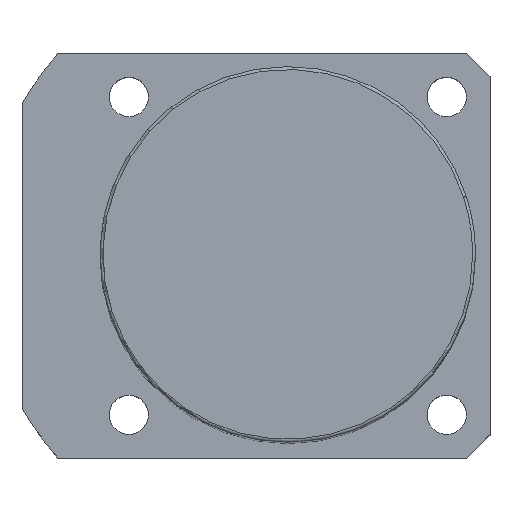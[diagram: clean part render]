
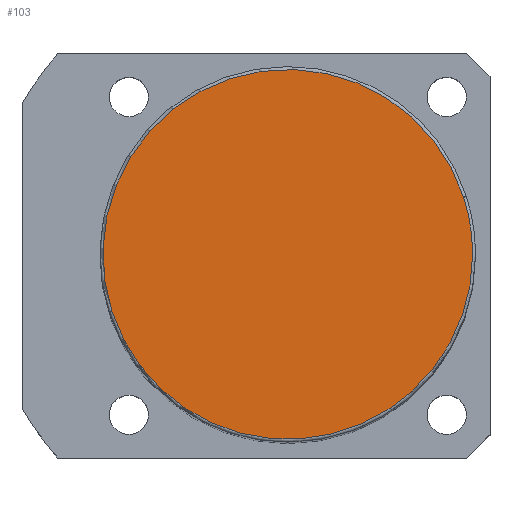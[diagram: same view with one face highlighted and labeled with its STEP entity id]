
A CAD part, top view. The second image highlights one B-rep face of the part: STEP entity #103.
In plain terms, the highlighted planar face has unit normal (0, 0, 1).
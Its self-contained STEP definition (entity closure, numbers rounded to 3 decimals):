
#16=CARTESIAN_POINT('',(-30.434,-9.889,161.0));
#17=VERTEX_POINT('',#16);
#54=CARTESIAN_POINT('',(30.434,9.889,161.0));
#55=VERTEX_POINT('',#54);
#63=CARTESIAN_POINT('',(32.0,0.0,161.0));
#64=VERTEX_POINT('',#63);
#65=CARTESIAN_POINT('',(0.0,0.0,161.0));
#66=DIRECTION('',(0.0,0.0,1.0));
#67=DIRECTION('',(1.0,0.0,0.0));
#68=AXIS2_PLACEMENT_3D('',#65,#66,#67);
#69=CIRCLE('',#68,32.0);
#70=EDGE_CURVE('no 898',#64,#55,#69,.T.);
#72=CARTESIAN_POINT('',(0.0,0.0,161.0));
#73=DIRECTION('',(0.0,0.0,1.0));
#74=DIRECTION('',(1.0,0.0,0.0));
#75=AXIS2_PLACEMENT_3D('',#72,#73,#74);
#76=CIRCLE('',#75,32.0);
#77=EDGE_CURVE('no 902',#17,#64,#76,.T.);
#87=ORIENTED_EDGE('',*,*,#70,.T.);
#88=CARTESIAN_POINT('',(0.0,0.0,161.0));
#89=DIRECTION('',(0.0,0.0,1.0));
#90=DIRECTION('',(1.0,0.0,0.0));
#91=AXIS2_PLACEMENT_3D('',#88,#89,#90);
#92=CIRCLE('',#91,32.0);
#93=EDGE_CURVE('no 911',#55,#17,#92,.T.);
#94=ORIENTED_EDGE('',*,*,#93,.T.);
#95=ORIENTED_EDGE('',*,*,#77,.T.);
#96=EDGE_LOOP('',(#87,#94,#95));
#97=FACE_OUTER_BOUND('',#96,.T.);
#98=CARTESIAN_POINT('',(0.0,0.0,161.0));
#99=DIRECTION('',(0.0,0.0,1.0));
#100=DIRECTION('',(1.0,0.0,0.0));
#101=AXIS2_PLACEMENT_3D('',#98,#99,#100);
#102=PLANE('',#101);
#103=ADVANCED_FACE('no 904',(#97),#102,.T.);
